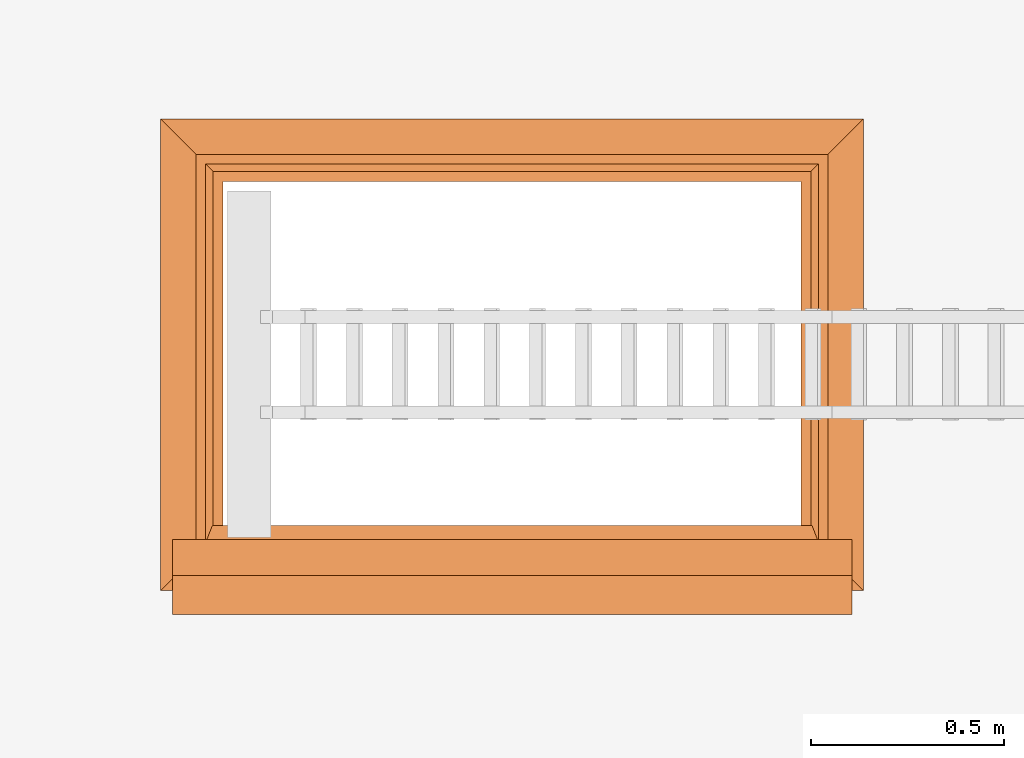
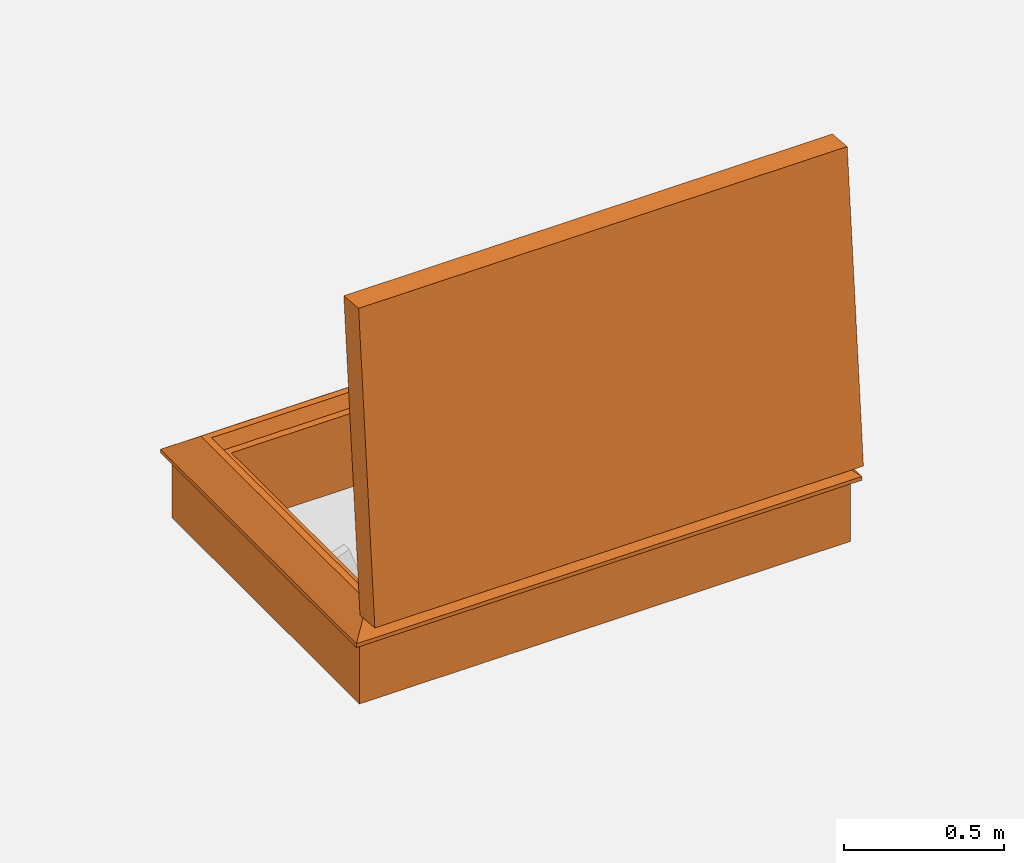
# One storey, part 20 of 28: 1 proxy.
"""IFC2X3 building model written with IfcOpenShell, lengths in millimetres."""

from ifc_helpers import new_model, entity, si_unit, converted_unit, derived_unit, direction, frame, origin, place, context, subcontext, project, spatial, faceted_brep, source, transform, mapped, type_object, type_shapes, element, save


model = new_model("IFC2X3")

# Units and contexts
model_context = context("Model", 3, precision=0.01, world=origin(), true_north=direction((6.12303176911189e-17, 1.0)))
body_context = subcontext(model_context, "Body", "Model", "MODEL_VIEW")
ifc_project = project(units=[si_unit("LENGTHUNIT", "METRE", prefix="MILLI"), si_unit("AREAUNIT", "SQUARE_METRE"), si_unit("VOLUMEUNIT", "CUBIC_METRE"), converted_unit("PLANEANGLEUNIT", "DEGREE", entity("IfcRatioMeasure", 0.0174532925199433), si_unit("PLANEANGLEUNIT", "RADIAN"), dimensions=[0, 0, 0, 0, 0, 0, 0]), si_unit("MASSUNIT", "GRAM", prefix="KILO"), derived_unit("MASSDENSITYUNIT", [(si_unit("MASSUNIT", "GRAM", prefix="KILO"), 1), (si_unit("LENGTHUNIT", "METRE"), -3)]), si_unit("TIMEUNIT", "SECOND"), si_unit("FREQUENCYUNIT", "HERTZ"), si_unit("THERMODYNAMICTEMPERATUREUNIT", "DEGREE_CELSIUS"), derived_unit("THERMALTRANSMITTANCEUNIT", [(si_unit("MASSUNIT", "GRAM", prefix="KILO"), 1), (si_unit("THERMODYNAMICTEMPERATUREUNIT", "KELVIN"), -1), (si_unit("TIMEUNIT", "SECOND"), -3)]), derived_unit("VOLUMETRICFLOWRATEUNIT", [(si_unit("LENGTHUNIT", "METRE"), 3), (si_unit("TIMEUNIT", "SECOND"), -1)]), si_unit("ELECTRICCURRENTUNIT", "AMPERE"), si_unit("ELECTRICVOLTAGEUNIT", "VOLT"), si_unit("POWERUNIT", "WATT"), si_unit("FORCEUNIT", "NEWTON", prefix="KILO"), si_unit("ILLUMINANCEUNIT", "LUX"), si_unit("LUMINOUSFLUXUNIT", "LUMEN"), si_unit("LUMINOUSINTENSITYUNIT", "CANDELA"), derived_unit("USERDEFINED", [(si_unit("MASSUNIT", "GRAM", prefix="KILO"), -1), (si_unit("LENGTHUNIT", "METRE"), -2), (si_unit("TIMEUNIT", "SECOND"), 3), (si_unit("LUMINOUSFLUXUNIT", "LUMEN"), 1)]), derived_unit("LINEARVELOCITYUNIT", [(si_unit("LENGTHUNIT", "METRE"), 1), (si_unit("TIMEUNIT", "SECOND"), -1)]), si_unit("PRESSUREUNIT", "PASCAL"), derived_unit("USERDEFINED", [(si_unit("LENGTHUNIT", "METRE"), -2), (si_unit("MASSUNIT", "GRAM", prefix="KILO"), 1), (si_unit("TIMEUNIT", "SECOND"), -2)])], contexts=[model_context])

# Site, building, storey
site_placement = place(None, origin())
site = spatial("IfcSite", under=ifc_project, at=site_placement, Name="Default", CompositionType="ELEMENT")
building_placement = place(site_placement, origin())
building = spatial("IfcBuilding", under=site, at=building_placement, CompositionType="ELEMENT")
storey_placement = place(building_placement, frame((0.0, 0.0, 4000.0)))
storey = spatial("IfcBuildingStorey", under=building, at=storey_placement, Name="Level 2", CompositionType="ELEMENT", Elevation=4000.0)

# Proxy
building_element_proxy_type = type_object("IfcBuildingElementProxyType", Name="1500 x 900 3part Stair", PredefinedType="NOTDEFINED")
shared_shape = source(origin(), body_context, "Body", "Brep", [
    faceted_brep([(-1631.26976233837, -350.124781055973, 344.195196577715), (-1631.26976233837, -348.800451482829, 344.908169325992), (-1631.26976233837, -347.339899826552, 345.26729022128), (-1631.26976233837, -345.835948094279, 345.249736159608), (-1631.26976233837, -344.384176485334, 344.856622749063), (-1631.26976233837, -343.076849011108, 344.112933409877), (-1631.26976233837, -341.997049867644, 343.065931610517), (-1631.26976233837, -341.213403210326, 341.782157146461), (-1631.26976233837, -340.775711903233, 340.343197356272), (-1631.26976233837, -340.711792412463, 338.840502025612), (-1631.26976233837, -340.696254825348, 336.62771705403), (-1631.26976233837, -340.198130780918, 334.471671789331), (-1631.26976233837, -339.24143902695, 332.476327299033), (-1631.26976233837, -337.872309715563, 330.737895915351), (-1631.26976233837, -336.156760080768, 329.340202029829), (-1631.26976233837, -334.177511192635, 328.350640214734), (-1631.26976233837, -301.289293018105, 316.210889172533), (-1631.26976233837, -348.141421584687, 278.729186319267), (-1631.26976233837, -358.074072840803, 291.145000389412), (-1631.26976233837, -359.148733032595, 293.636450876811), (-1631.26976233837, -359.233835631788, 296.34845707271), (-1631.26976233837, -352.042121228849, 341.908549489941), (-1631.26976233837, -351.228723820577, 343.173683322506), (-1599.74602094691, -334.177511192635, 328.350640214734), (-1599.74602094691, -301.289293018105, 316.210889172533), (-1599.74602094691, -348.141421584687, 278.729186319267), (-1599.74602094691, -358.074072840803, 291.145000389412), (-1599.74602094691, -359.148733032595, 293.636450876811), (-1599.74602094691, -359.23383563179, 296.34845707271), (-1599.74602094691, -352.042121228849, 341.908549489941), (-1599.74602094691, -351.228723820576, 343.173683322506), (-1599.74602094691, -350.124781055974, 344.195196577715), (-1599.74602094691, -348.80045148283, 344.908169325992), (-1599.74602094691, -347.339899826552, 345.26729022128), (-1599.74602094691, -345.835948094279, 345.249736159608), (-1599.74602094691, -344.384176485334, 344.856622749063), (-1599.74602094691, -343.076849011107, 344.112933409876), (-1599.74602094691, -341.997049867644, 343.065931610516), (-1599.74602094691, -341.213403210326, 341.78215714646), (-1599.74602094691, -340.775711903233, 340.343197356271), (-1599.74602094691, -340.711792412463, 338.840502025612), (-1599.74602094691, -340.696254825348, 336.62771705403), (-1599.74602094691, -340.198130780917, 334.471671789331), (-1599.74602094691, -339.24143902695, 332.476327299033), (-1599.74602094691, -336.156760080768, 329.340202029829), (-1599.74602094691, -337.872309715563, 330.737895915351)], [[[0, 1, 2, 3, 4, 5, 6, 7, 8, 9, 10, 11, 12, 13, 14, 15, 16, 17, 18, 19, 20, 21, 22]], [[16, 15, 23, 24]], [[17, 16, 24, 25]], [[18, 17, 25, 26]], [[18, 26, 27, 19]], [[28, 20, 19, 27]], [[21, 20, 28, 29]], [[30, 22, 21, 29]], [[31, 0, 22, 30]], [[2, 1, 32, 33]], [[1, 0, 31, 32]], [[33, 34, 3, 2]], [[34, 35, 4, 3]], [[36, 5, 4, 35]], [[37, 6, 5, 36]], [[38, 39, 8, 7]], [[38, 7, 6, 37]], [[9, 8, 39, 40]], [[41, 42, 11, 10]], [[40, 41, 10, 9]], [[43, 12, 11, 42]], [[44, 23, 15, 14]], [[45, 44, 14, 13]], [[45, 13, 12, 43]], [[25, 24, 23, 44, 45, 43, 42, 41, 40, 39, 38, 37, 36, 35, 34, 33, 32, 31, 30, 29, 28, 27, 26]]]),
    faceted_brep([(-164.993105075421, -301.289293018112, 316.210889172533), (-164.993105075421, -334.177511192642, 328.350640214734), (-131.269762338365, -334.177511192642, 328.350640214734), (-131.269762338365, -301.289293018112, 316.210889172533), (-164.993105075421, -348.141421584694, 278.729186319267), (-131.269762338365, -348.141421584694, 278.729186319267), (-164.993105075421, -358.07407284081, 291.145000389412), (-131.269762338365, -358.07407284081, 291.145000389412), (-164.993105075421, -359.148733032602, 293.636450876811), (-131.269762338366, -359.148733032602, 293.636450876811), (-131.269762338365, -359.233835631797, 296.34845707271), (-164.993105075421, -359.233835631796, 296.34845707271), (-164.993105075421, -352.042121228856, 341.908549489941), (-131.269762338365, -352.042121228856, 341.908549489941), (-131.269762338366, -351.228723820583, 343.173683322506), (-164.993105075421, -351.228723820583, 343.173683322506), (-131.269762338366, -350.12478105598, 344.195196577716), (-164.993105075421, -350.12478105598, 344.195196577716), (-164.993105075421, -347.339899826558, 345.26729022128), (-164.993105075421, -348.800451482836, 344.908169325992), (-131.269762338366, -348.800451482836, 344.908169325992), (-131.269762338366, -347.339899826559, 345.26729022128), (-164.993105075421, -345.835948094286, 345.249736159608), (-131.269762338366, -345.835948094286, 345.249736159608), (-131.269762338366, -344.384176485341, 344.856622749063), (-164.993105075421, -344.384176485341, 344.856622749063), (-131.269762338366, -343.076849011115, 344.112933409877), (-164.993105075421, -343.076849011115, 344.112933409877), (-131.269762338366, -341.997049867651, 343.065931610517), (-164.993105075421, -341.997049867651, 343.065931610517), (-164.993105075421, -340.77571190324, 340.343197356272), (-164.993105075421, -341.213403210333, 341.782157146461), (-131.269762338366, -341.213403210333, 341.782157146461), (-131.269762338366, -340.77571190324, 340.343197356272), (-164.993105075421, -340.71179241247, 338.840502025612), (-131.269762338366, -340.71179241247, 338.840502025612), (-164.993105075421, -340.696254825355, 336.62771705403), (-131.269762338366, -340.696254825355, 336.62771705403), (-164.993105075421, -340.198130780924, 334.471671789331), (-131.269762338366, -340.198130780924, 334.471671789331), (-131.269762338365, -339.241439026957, 332.476327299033), (-164.993105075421, -339.241439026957, 332.476327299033), (-164.993105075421, -336.156760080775, 329.340202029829), (-164.993105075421, -337.87230971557, 330.737895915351), (-131.269762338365, -337.87230971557, 330.737895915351), (-131.269762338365, -336.156760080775, 329.340202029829)], [[[0, 1, 2, 3]], [[4, 0, 3, 5]], [[6, 4, 5, 7]], [[8, 6, 7, 9]], [[8, 9, 10, 11]], [[12, 11, 10, 13]], [[14, 15, 12, 13]], [[16, 17, 15, 14]], [[18, 19, 20, 21]], [[16, 20, 19, 17]], [[22, 18, 21, 23]], [[23, 24, 25, 22]], [[26, 27, 25, 24]], [[28, 29, 27, 26]], [[30, 31, 32, 33]], [[28, 32, 31, 29]], [[34, 30, 33, 35]], [[36, 34, 35, 37]], [[38, 36, 37, 39]], [[40, 41, 38, 39]], [[42, 43, 44, 45]], [[1, 42, 45, 2]], [[44, 43, 41, 40]], [[10, 9, 7, 5, 3, 2, 45, 44, 40, 39, 37, 35, 33, 32, 28, 26, 24, 23, 21, 20, 16, 14, 13]], [[34, 36, 38, 41, 43, 42, 1, 0, 4, 6, 8, 11, 12, 15, 17, 19, 18, 22, 25, 27, 29, 31, 30]]]),
    faceted_brep([(-61.2697623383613, 753.447095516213, 328.0), (30.7302376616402, 845.447095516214, 254.4), (-1793.26976233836, 845.447095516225, 254.4), (-1701.26976233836, 753.447095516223, 328.0), (-105.269762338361, 709.447095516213, 282.0), (-85.7439207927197, 728.972937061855, 328.0), (-1676.795603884, 728.972937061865, 328.0), (-1657.26976233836, 709.447095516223, 282.0), (-131.269762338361, 683.447095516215, 0.0), (-131.269762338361, 683.447095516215, 282.0), (-1631.26976233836, 683.447095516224, 282.0), (-1631.26976233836, 683.447095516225, 0.0), (4.73023766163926, 819.447095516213, 240.0), (4.73023766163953, 819.447095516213, 0.0), (-1767.26976233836, 819.447095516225, 0.0), (-1767.26976233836, 819.447095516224, 240.0), (30.7302376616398, 845.447095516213, 240.0), (-1793.26976233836, 845.447095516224, 240.0), (-1793.26976233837, -378.552904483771, 254.4), (-1701.26976233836, -286.55290448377, 328.0), (-1676.79560388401, -262.078746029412, 328.0), (-1657.26976233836, -242.552904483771, 282.0), (-1631.26976233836, -216.552904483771, 282.0), (-1631.26976233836, -216.552904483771, 0.0), (-1767.26976233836, -352.55290448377, 0.0), (-1767.26976233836, -352.55290448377, 240.0), (-1793.26976233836, -378.55290448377, 240.0), (30.7302376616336, -378.552904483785, 254.399999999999), (-61.2697623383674, -286.552904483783, 328.0), (-85.7439207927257, -262.078746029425, 328.0), (-105.269762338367, -242.552904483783, 282.0), (-131.269762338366, -216.552904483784, 282.0), (-131.269762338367, -216.552904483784, 0.0), (4.73023766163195, -352.552904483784, 0.0), (4.73023766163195, -352.552904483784, 240.0), (30.7302376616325, -378.552904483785, 240.0)], [[[0, 1, 2, 3]], [[4, 5, 6, 7]], [[8, 9, 10, 11]], [[12, 13, 14, 15]], [[1, 16, 17, 2]], [[3, 2, 18, 19]], [[7, 6, 20, 21]], [[11, 10, 22, 23]], [[15, 14, 24, 25]], [[2, 17, 26, 18]], [[19, 18, 27, 28]], [[21, 20, 29, 30]], [[23, 22, 31, 32]], [[25, 24, 33, 34]], [[18, 26, 35, 27]], [[28, 27, 1, 0]], [[3, 19, 28, 0], [5, 29, 20, 6]], [[30, 29, 5, 4]], [[7, 21, 30, 4], [9, 31, 22, 10]], [[32, 31, 9, 8]], [[11, 23, 32, 8], [13, 33, 24, 14]], [[34, 33, 13, 12]], [[15, 25, 34, 12], [16, 35, 26, 17]], [[27, 35, 16, 1]]], outer=[[True], [True], [True], [True], [True], [True], [True], [True], [True], [True], [True], [True], [True], [True], [True], [True], [True, False], [True], [True, False], [True], [False, True], [True], [False, True], [True]]),
    faceted_brep([(-1633.27259076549, -350.029551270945, 1370.57460720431), (-1633.27259076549, -428.818342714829, 470.014600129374), (-128.272590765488, -428.81834271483, 470.014600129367), (-128.272590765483, -350.029551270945, 1370.57460720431), (-1633.27259076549, -211.160010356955, 1358.42509666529), (-128.272590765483, -211.160010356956, 1358.42509666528), (-128.272590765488, -289.94880180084, 457.865089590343), (-1633.27259076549, -289.948801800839, 457.86508959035)], [[[0, 1, 2, 3]], [[4, 5, 6, 7]], [[1, 0, 4, 7]], [[2, 1, 7, 6]], [[3, 2, 6, 5]], [[0, 3, 5, 4]]]),
    faceted_brep([(-128.272590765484, -211.16001035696, 1358.42509666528), (-128.272590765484, -350.02955127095, 1370.57460720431), (-1633.27259076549, -350.029551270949, 1370.57460720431), (-1633.27259076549, -211.16001035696, 1358.42509666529), (-85.2725907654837, -253.635747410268, 1405.30549514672), (-102.872590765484, -208.94625449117, 1383.72844199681), (-1658.67259076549, -208.946254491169, 1383.72844199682), (-1676.27259076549, -253.635747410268, 1405.30549514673), (0.727409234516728, -338.786460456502, 1499.08372325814), (0.727409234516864, -246.14035353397, 1490.97823918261), (-1762.27259076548, -246.140353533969, 1490.97823918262), (-1762.27259076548, -338.786460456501, 1499.08372325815), (-1633.27259076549, -428.818342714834, 470.014600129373), (-1633.27259076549, -289.948801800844, 457.865089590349), (-1658.67259076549, -292.162557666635, 432.561744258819), (-1676.27259076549, -339.919932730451, 419.072744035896), (-1762.27259076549, -347.41532660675, 333.400000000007), (-1762.27259076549, -440.061433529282, 341.505484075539), (-128.27259076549, -428.818342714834, 470.014600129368), (-128.27259076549, -289.948801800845, 457.865089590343), (-102.87259076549, -292.162557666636, 432.561744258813), (-85.2725907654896, -339.919932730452, 419.072744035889), (0.727409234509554, -347.41532660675, 333.399999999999), (0.727409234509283, -440.061433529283, 341.505484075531)], [[[0, 1, 2, 3]], [[4, 5, 6, 7]], [[8, 9, 10, 11]], [[3, 2, 12, 13]], [[7, 6, 14, 15]], [[11, 10, 16, 17]], [[13, 12, 18, 19]], [[15, 14, 20, 21]], [[17, 16, 22, 23]], [[19, 18, 1, 0]], [[3, 13, 19, 0], [5, 20, 14, 6]], [[21, 20, 5, 4]], [[7, 15, 21, 4], [9, 22, 16, 10]], [[23, 22, 9, 8]], [[1, 18, 12, 2], [11, 17, 23, 8]]], outer=[[True], [True], [True], [True], [True], [True], [True], [True], [True], [True], [False, True], [True], [False, True], [True], [False, True]]),
])
type_shapes(building_element_proxy_type, [shared_shape])
proxy_placement = place(storey_placement, frame((-4778.38927370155, 9522.19034122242, 400.0)))
element("IfcBuildingElementProxy", 1, at=proxy_placement, inside=storey, type_object=building_element_proxy_type, Name="4_Topaccess_dakluik_1500x900_Staka:1500 x 900 3part Stair", ObjectType="1500 x 900 3part Stair", context=body_context, shape_type="MappedRepresentation", body=[
    mapped(shared_shape, transform((0.0, 0.0, 0.0), scale=1.0)),
])

save(model, "model.ifc")
